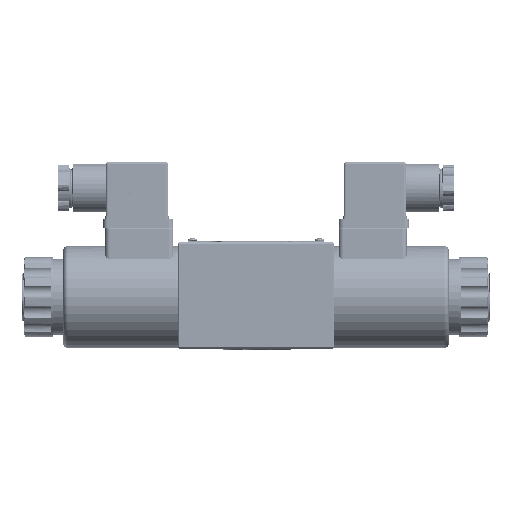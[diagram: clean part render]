
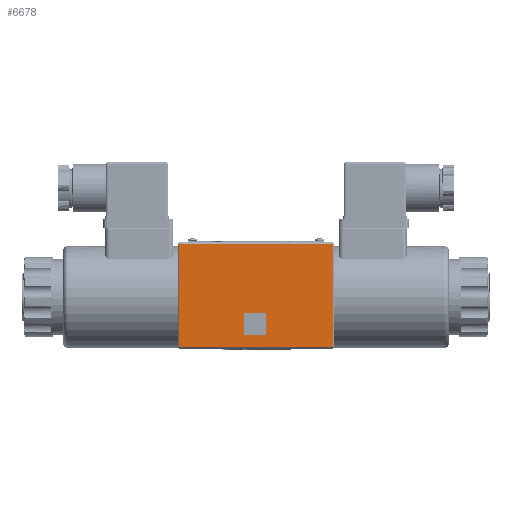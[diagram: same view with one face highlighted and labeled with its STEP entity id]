
A CAD part, top view. The second image highlights one B-rep face of the part: STEP entity #6678.
In plain terms, the highlighted planar face has unit normal (0, 0, 1).
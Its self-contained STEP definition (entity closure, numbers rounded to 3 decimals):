
#3616=FACE_BOUND('',#17790,.T.);
#3617=FACE_BOUND('',#17791,.T.);
#6678=ADVANCED_FACE('',(#3616,#3617),#10467,.T.);
#10467=PLANE('',#79529);
#17790=EDGE_LOOP('',(#29372,#29373,#29374,#29375));
#17791=EDGE_LOOP('',(#29376,#29377,#29378,#29379));
#29372=ORIENTED_EDGE('',*,*,#53746,.T.);
#29373=ORIENTED_EDGE('',*,*,#53747,.T.);
#29374=ORIENTED_EDGE('',*,*,#53748,.T.);
#29375=ORIENTED_EDGE('',*,*,#53749,.T.);
#29376=ORIENTED_EDGE('',*,*,#53750,.T.);
#29377=ORIENTED_EDGE('',*,*,#53751,.T.);
#29378=ORIENTED_EDGE('',*,*,#53752,.T.);
#29379=ORIENTED_EDGE('',*,*,#53753,.T.);
#45442=VERTEX_POINT('',#136821);
#45443=VERTEX_POINT('',#136822);
#45444=VERTEX_POINT('',#136824);
#45445=VERTEX_POINT('',#136826);
#45446=VERTEX_POINT('',#136829);
#45447=VERTEX_POINT('',#136830);
#45448=VERTEX_POINT('',#136832);
#45449=VERTEX_POINT('',#136834);
#53746=EDGE_CURVE('',#45442,#45443,#63663,.T.);
#53747=EDGE_CURVE('',#45443,#45444,#63664,.T.);
#53748=EDGE_CURVE('',#45444,#45445,#63665,.T.);
#53749=EDGE_CURVE('',#45445,#45442,#63666,.T.);
#53750=EDGE_CURVE('',#45446,#45447,#63667,.T.);
#53751=EDGE_CURVE('',#45447,#45448,#63668,.T.);
#53752=EDGE_CURVE('',#45448,#45449,#63669,.T.);
#53753=EDGE_CURVE('',#45449,#45446,#63670,.T.);
#63663=LINE('',#136820,#72252);
#63664=LINE('',#136823,#72253);
#63665=LINE('',#136825,#72254);
#63666=LINE('',#136827,#72255);
#63667=LINE('',#136828,#72256);
#63668=LINE('',#136831,#72257);
#63669=LINE('',#136833,#72258);
#63670=LINE('',#136835,#72259);
#72252=VECTOR('',#89579,1.);
#72253=VECTOR('',#89580,1.);
#72254=VECTOR('',#89581,1.);
#72255=VECTOR('',#89582,1.);
#72256=VECTOR('',#89583,1.);
#72257=VECTOR('',#89584,1.);
#72258=VECTOR('',#89585,1.);
#72259=VECTOR('',#89586,1.);
#79529=AXIS2_PLACEMENT_3D('',#136836,#89587,#89588);
#89579=DIRECTION('',(0.,-1.,0.));
#89580=DIRECTION('',(1.,0.,0.));
#89581=DIRECTION('',(0.,1.,0.));
#89582=DIRECTION('',(-1.,0.,0.));
#89583=DIRECTION('',(0.,1.,0.));
#89584=DIRECTION('',(1.,0.,0.));
#89585=DIRECTION('',(0.,-1.,0.));
#89586=DIRECTION('',(-1.,0.,0.));
#89587=DIRECTION('',(0.,0.,1.));
#89588=DIRECTION('',(-1.,0.,0.));
#136820=CARTESIAN_POINT('',(106.926,172.261,22.));
#136821=CARTESIAN_POINT('',(106.926,195.061,22.));
#136822=CARTESIAN_POINT('',(106.926,149.461,22.));
#136823=CARTESIAN_POINT('',(140.726,149.461,22.));
#136824=CARTESIAN_POINT('',(174.526,149.461,22.));
#136825=CARTESIAN_POINT('',(174.526,195.761,22.));
#136826=CARTESIAN_POINT('',(174.526,195.061,22.));
#136827=CARTESIAN_POINT('',(106.226,195.061,22.));
#136828=CARTESIAN_POINT('',(135.226,154.765,22.));
#136829=CARTESIAN_POINT('',(135.226,154.765,22.));
#136830=CARTESIAN_POINT('',(135.226,164.765,22.));
#136831=CARTESIAN_POINT('',(135.226,164.765,22.));
#136832=CARTESIAN_POINT('',(145.226,164.765,22.));
#136833=CARTESIAN_POINT('',(145.226,164.765,22.));
#136834=CARTESIAN_POINT('',(145.226,154.765,22.));
#136835=CARTESIAN_POINT('',(145.226,154.765,22.));
#136836=CARTESIAN_POINT('',(140.726,172.261,22.));
